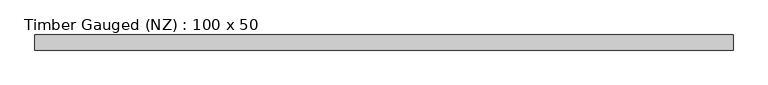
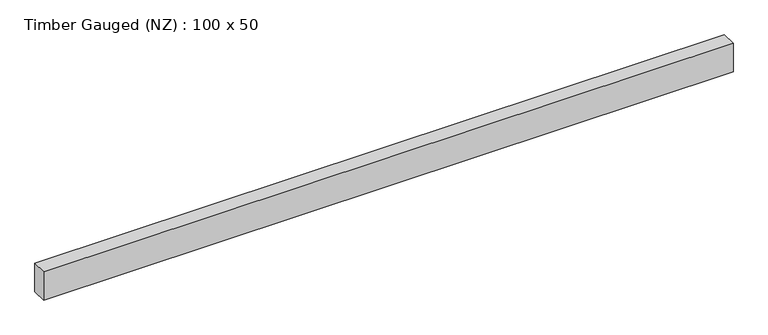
"""IFC4 building model written with IfcOpenShell, lengths in millimetres: beam geometry, Timber Gauged (NZ) : 100 x 50."""

from ifc_helpers import new_model, si_unit, frame, origin, place, context, project, spatial, polyline, outline, extrude, source, transform, mapped, element, save


def timber_gauged_nz_100_x_50_be6c7ca1(model_context):
    return source(origin(), model_context, "Body", "SweptSolid", [
        extrude(outline(polyline([(1154.0, 23.5), (1154.0, -23.5), (-1017.0, -23.5), (-1017.0, 23.5), (1154.0, 23.5)])), frame((0.0, 0.0, -47.0), z_axis=(0.0, 0.0, 1.0), x_axis=(1.0, 0.0, 0.0)), (0.0, 0.0, 1.0), 94.0),
    ])


if __name__ == "__main__":
    model = new_model("IFC4")
    model_context = context("Model", 3, world=origin())
    ifc_project = project(units=[si_unit("LENGTHUNIT", "METRE", prefix="MILLI")], contexts=[model_context])
    site = spatial("IfcSite", under=ifc_project)
    building = spatial("IfcBuilding", under=site)
    placement = place(None, origin())
    timber_gauged_nz_100_x_50_shape = timber_gauged_nz_100_x_50_be6c7ca1(model_context)
    element("IfcBeam", 1, ObjectType="Timber Gauged (NZ) : 100 x 50", at=placement, inside=building, context=model_context, shape_type="MappedRepresentation", body=[
        mapped(timber_gauged_nz_100_x_50_shape, transform((0.0, 0.0, 0.0), x_axis=(1.0, 0.0, 0.0), y_axis=(0.0, 1.0, 0.0), z_axis=(0.0, 0.0, 1.0))),
    ])
    save(model, "model.ifc")
